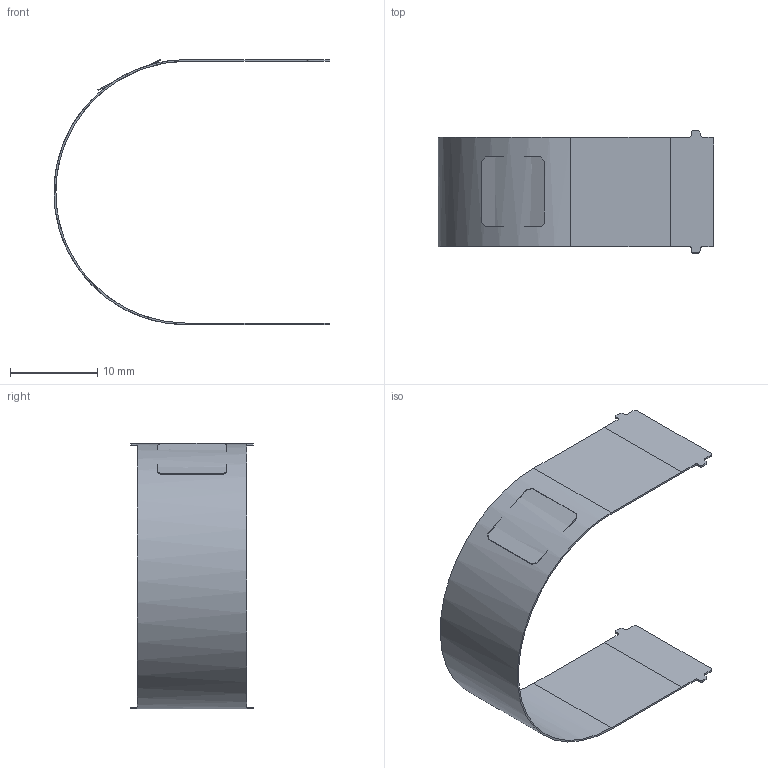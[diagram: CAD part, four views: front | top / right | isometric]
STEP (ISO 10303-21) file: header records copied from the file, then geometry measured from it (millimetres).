
FILE_DESCRIPTION(('Open CASCADE Model'),'2;1');
FILE_NAME('Open CASCADE Shape Model','2022-03-09T11:34:41',('Author'),( 'Open CASCADE'),'Open CASCADE STEP processor 6.8','Open CASCADE 6.8' ,'Unknown');
FILE_SCHEMA(('AUTOMOTIVE_DESIGN { 1 0 10303 214 1 1 1 1 }'));
Length unit declared in the file: millimetre
Products named in the file (10): PCB; Board; Open CASCADE STEP translator 6.8 3.1.1; Open CASCADE STEP translator 6.8 3.1.2; Open CASCADE STEP translator 6.8 3.1.3; Open CASCADE STEP translator 6.8 3.1.4; Open CASCADE STEP translator 6.8 3.1.5; LA1; 6411200288; Extruded
Assembly tree (9 placements, depth 4):
  PCB
    Board
      Open CASCADE STEP translator 6.8 3.1.1
      Open CASCADE STEP translator 6.8 3.1.2
      Open CASCADE STEP translator 6.8 3.1.3
      Open CASCADE STEP translator 6.8 3.1.4
      Open CASCADE STEP translator 6.8 3.1.5
    LA1
      6411200288
        Extruded
Bounding box: 31.62 x 14 x 30.43 mm (x, y, z)
Volume: 202.7 mm3; surface area: 2200.6 mm2
Topology: 6 solids, 6 shells, 140 faces, 384 edges, 256 vertices
Faces by surface type: plane 138, cylinder 2
Entity records: 4594 total; most frequent: CARTESIAN_POINT 828, ORIENTED_EDGE 768, DIRECTION 676, EDGE_CURVE 384, LINE 376, VECTOR 376, VERTEX_POINT 256, AXIS2_PLACEMENT_3D 150
